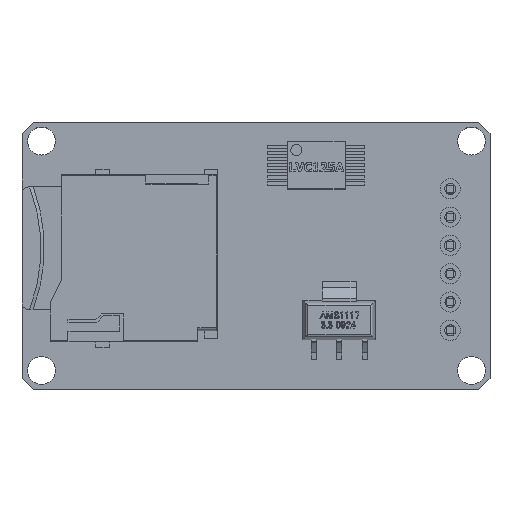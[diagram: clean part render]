
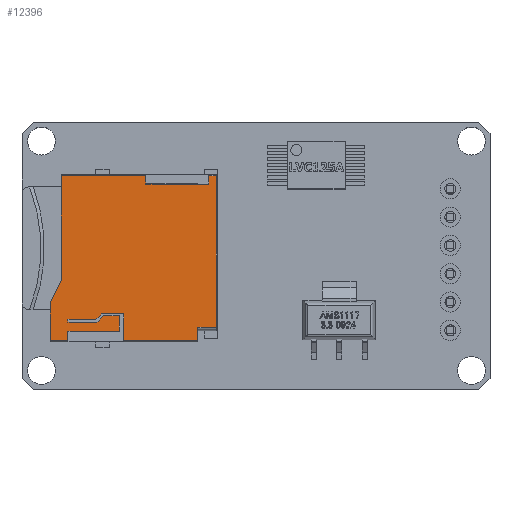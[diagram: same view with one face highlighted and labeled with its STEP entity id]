
A CAD part, top view. The second image highlights one B-rep face of the part: STEP entity #12396.
In plain terms, the highlighted planar face has unit normal (0, 0, 1).
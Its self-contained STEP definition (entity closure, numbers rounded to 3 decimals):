
#758=LINE('',#17921,#2196);
#766=LINE('',#17937,#2204);
#775=LINE('',#17957,#2213);
#776=LINE('',#17961,#2214);
#782=LINE('',#17982,#2220);
#788=LINE('',#17998,#2226);
#791=LINE('',#18004,#2229);
#799=LINE('',#18021,#2237);
#800=LINE('',#18025,#2238);
#803=LINE('',#18031,#2241);
#824=LINE('',#18077,#2262);
#825=LINE('',#18080,#2263);
#828=LINE('',#18086,#2266);
#831=LINE('',#18092,#2269);
#834=LINE('',#18098,#2272);
#837=LINE('',#18104,#2275);
#840=LINE('',#18110,#2278);
#843=LINE('',#18116,#2281);
#846=LINE('',#18122,#2284);
#849=LINE('',#18127,#2287);
#855=LINE('',#18140,#2293);
#861=LINE('',#18150,#2299);
#876=LINE('',#18179,#2314);
#1022=LINE('',#18481,#2460);
#2196=VECTOR('',#14189,10.);
#2204=VECTOR('',#14201,9.5);
#2213=VECTOR('',#14216,10.);
#2214=VECTOR('',#14221,10.);
#2220=VECTOR('',#14243,10.);
#2226=VECTOR('',#14257,10.);
#2229=VECTOR('',#14262,10.);
#2237=VECTOR('',#14276,10.);
#2238=VECTOR('',#14281,10.);
#2241=VECTOR('',#14286,10.);
#2262=VECTOR('',#14341,10.);
#2263=VECTOR('',#14344,10.);
#2266=VECTOR('',#14349,10.);
#2269=VECTOR('',#14354,10.);
#2272=VECTOR('',#14359,10.);
#2275=VECTOR('',#14364,10.);
#2278=VECTOR('',#14369,10.);
#2281=VECTOR('',#14374,10.);
#2284=VECTOR('',#14379,10.);
#2287=VECTOR('',#14384,10.);
#2293=VECTOR('',#14396,10.);
#2299=VECTOR('',#14404,10.);
#2314=VECTOR('',#14431,2.236);
#2460=VECTOR('',#14745,3.5);
#3660=FACE_OUTER_BOUND('',#4316,.T.);
#4316=EDGE_LOOP('',(#9333,#9334,#9335,#9336,#9337,#9338,#9339,#9340,#9341,
#9342,#9343,#9344,#9345,#9346,#9347,#9348,#9349,#9350,#9351,#9352,#9353,
#9354,#9355,#9356));
#5140=VERTEX_POINT('',#17918);
#5141=VERTEX_POINT('',#17920);
#5147=VERTEX_POINT('',#17935);
#5154=VERTEX_POINT('',#17954);
#5155=VERTEX_POINT('',#17956);
#5156=VERTEX_POINT('',#17960);
#5163=VERTEX_POINT('',#17980);
#5166=VERTEX_POINT('',#17991);
#5169=VERTEX_POINT('',#17996);
#5171=VERTEX_POINT('',#18002);
#5176=VERTEX_POINT('',#18018);
#5177=VERTEX_POINT('',#18020);
#5178=VERTEX_POINT('',#18024);
#5180=VERTEX_POINT('',#18030);
#5189=VERTEX_POINT('',#18079);
#5191=VERTEX_POINT('',#18085);
#5193=VERTEX_POINT('',#18091);
#5195=VERTEX_POINT('',#18097);
#5197=VERTEX_POINT('',#18103);
#5199=VERTEX_POINT('',#18109);
#5201=VERTEX_POINT('',#18115);
#5203=VERTEX_POINT('',#18121);
#5208=VERTEX_POINT('',#18139);
#5219=VERTEX_POINT('',#18177);
#6534=EDGE_CURVE('',#5140,#5141,#758,.T.);
#6543=EDGE_CURVE('',#5140,#5147,#766,.T.);
#6553=EDGE_CURVE('',#5154,#5155,#775,.T.);
#6555=EDGE_CURVE('',#5155,#5156,#776,.T.);
#6566=EDGE_CURVE('',#5154,#5163,#782,.T.);
#6574=EDGE_CURVE('',#5169,#5166,#788,.T.);
#6577=EDGE_CURVE('',#5169,#5171,#791,.T.);
#6586=EDGE_CURVE('',#5176,#5177,#799,.T.);
#6588=EDGE_CURVE('',#5178,#5177,#800,.T.);
#6591=EDGE_CURVE('',#5156,#5180,#803,.T.);
#6613=EDGE_CURVE('',#5176,#5180,#824,.T.);
#6614=EDGE_CURVE('',#5189,#5178,#825,.T.);
#6617=EDGE_CURVE('',#5191,#5189,#828,.T.);
#6620=EDGE_CURVE('',#5193,#5191,#831,.T.);
#6623=EDGE_CURVE('',#5195,#5193,#834,.T.);
#6626=EDGE_CURVE('',#5197,#5195,#837,.T.);
#6629=EDGE_CURVE('',#5199,#5197,#840,.T.);
#6632=EDGE_CURVE('',#5201,#5199,#843,.T.);
#6635=EDGE_CURVE('',#5203,#5201,#846,.T.);
#6638=EDGE_CURVE('',#5171,#5203,#849,.T.);
#6644=EDGE_CURVE('',#5208,#5141,#855,.T.);
#6650=EDGE_CURVE('',#5163,#5208,#861,.T.);
#6665=EDGE_CURVE('',#5147,#5219,#876,.T.);
#6815=EDGE_CURVE('',#5219,#5166,#1022,.T.);
#9333=ORIENTED_EDGE('',*,*,#6534,.F.);
#9334=ORIENTED_EDGE('',*,*,#6543,.T.);
#9335=ORIENTED_EDGE('',*,*,#6665,.T.);
#9336=ORIENTED_EDGE('',*,*,#6815,.T.);
#9337=ORIENTED_EDGE('',*,*,#6574,.F.);
#9338=ORIENTED_EDGE('',*,*,#6577,.T.);
#9339=ORIENTED_EDGE('',*,*,#6638,.T.);
#9340=ORIENTED_EDGE('',*,*,#6635,.T.);
#9341=ORIENTED_EDGE('',*,*,#6632,.T.);
#9342=ORIENTED_EDGE('',*,*,#6629,.T.);
#9343=ORIENTED_EDGE('',*,*,#6626,.T.);
#9344=ORIENTED_EDGE('',*,*,#6623,.T.);
#9345=ORIENTED_EDGE('',*,*,#6620,.T.);
#9346=ORIENTED_EDGE('',*,*,#6617,.T.);
#9347=ORIENTED_EDGE('',*,*,#6614,.T.);
#9348=ORIENTED_EDGE('',*,*,#6588,.T.);
#9349=ORIENTED_EDGE('',*,*,#6586,.F.);
#9350=ORIENTED_EDGE('',*,*,#6613,.T.);
#9351=ORIENTED_EDGE('',*,*,#6591,.F.);
#9352=ORIENTED_EDGE('',*,*,#6555,.F.);
#9353=ORIENTED_EDGE('',*,*,#6553,.F.);
#9354=ORIENTED_EDGE('',*,*,#6566,.T.);
#9355=ORIENTED_EDGE('',*,*,#6650,.T.);
#9356=ORIENTED_EDGE('',*,*,#6644,.T.);
#11709=PLANE('',#13111);
#12396=ADVANCED_FACE('',(#3660),#11709,.T.);
#13111=AXIS2_PLACEMENT_3D('',#18482,#14746,#14747);
#14189=DIRECTION('',(1.,0.,0.));
#14201=DIRECTION('',(0.,-1.,0.));
#14216=DIRECTION('',(1.,0.,0.));
#14221=DIRECTION('',(0.,-1.,0.));
#14243=DIRECTION('',(0.,-1.,0.));
#14257=DIRECTION('',(-1.,0.,0.));
#14262=DIRECTION('',(0.,1.,0.));
#14276=DIRECTION('',(-1.,0.,0.));
#14281=DIRECTION('',(0.,-1.,0.));
#14286=DIRECTION('',(-1.,0.,0.));
#14341=DIRECTION('',(0.,1.,0.));
#14344=DIRECTION('',(1.,0.,0.));
#14349=DIRECTION('',(0.707,0.707,0.));
#14354=DIRECTION('',(1.,0.,0.));
#14359=DIRECTION('',(0.,1.,0.));
#14364=DIRECTION('',(-1.,0.,0.));
#14369=DIRECTION('',(-0.707,-0.707,0.));
#14374=DIRECTION('',(-1.,0.,0.));
#14379=DIRECTION('',(0.,1.,0.));
#14384=DIRECTION('',(1.,0.,0.));
#14396=DIRECTION('',(0.,1.,0.));
#14404=DIRECTION('',(-1.,0.,0.));
#14431=DIRECTION('',(-0.447,-0.894,0.));
#14745=DIRECTION('',(0.,-1.,0.));
#14746=DIRECTION('center_axis',(0.,0.,1.));
#14747=DIRECTION('ref_axis',(1.,0.,0.));
#17918=CARTESIAN_POINT('',(-14.084,8.2,3.4));
#17920=CARTESIAN_POINT('',(-6.501,8.2,3.4));
#17921=CARTESIAN_POINT('',(-0.042,8.2,3.4));
#17935=CARTESIAN_POINT('',(-14.084,-1.2,3.4));
#17937=CARTESIAN_POINT('',(-14.084,8.3,3.4));
#17954=CARTESIAN_POINT('',(-0.871,8.2,3.4));
#17956=CARTESIAN_POINT('',(-0.184,8.2,3.4));
#17957=CARTESIAN_POINT('',(-0.042,8.2,3.4));
#17960=CARTESIAN_POINT('',(-0.184,-5.4,3.4));
#17961=CARTESIAN_POINT('',(-0.184,-3.35,3.4));
#17980=CARTESIAN_POINT('',(-0.871,7.45,3.4));
#17982=CARTESIAN_POINT('',(-0.871,4.15,3.4));
#17991=CARTESIAN_POINT('',(-15.084,-6.6,3.4));
#17996=CARTESIAN_POINT('',(-13.496,-6.6,3.4));
#17998=CARTESIAN_POINT('',(-7.542,-6.6,3.4));
#18002=CARTESIAN_POINT('',(-13.496,-5.75,3.4));
#18004=CARTESIAN_POINT('',(-13.496,-3.35,3.4));
#18018=CARTESIAN_POINT('',(-1.834,-6.6,3.4));
#18020=CARTESIAN_POINT('',(-8.496,-6.6,3.4));
#18021=CARTESIAN_POINT('',(-7.542,-6.6,3.4));
#18024=CARTESIAN_POINT('',(-8.496,-4.2,3.4));
#18025=CARTESIAN_POINT('',(-8.496,-2.1,3.4));
#18030=CARTESIAN_POINT('',(-1.834,-5.4,3.4));
#18031=CARTESIAN_POINT('',(-0.917,-5.4,3.4));
#18077=CARTESIAN_POINT('',(-1.834,-3.35,3.4));
#18079=CARTESIAN_POINT('',(-10.496,-4.2,3.4));
#18080=CARTESIAN_POINT('',(-5.248,-4.2,3.4));
#18085=CARTESIAN_POINT('',(-10.996,-4.7,3.4));
#18086=CARTESIAN_POINT('',(-7.072,-0.776,3.4));
#18091=CARTESIAN_POINT('',(-13.496,-4.7,3.4));
#18092=CARTESIAN_POINT('',(-6.748,-4.7,3.4));
#18097=CARTESIAN_POINT('',(-13.496,-4.95,3.4));
#18098=CARTESIAN_POINT('',(-13.496,-2.475,3.4));
#18103=CARTESIAN_POINT('',(-10.896,-4.95,3.4));
#18104=CARTESIAN_POINT('',(-5.448,-4.95,3.4));
#18109=CARTESIAN_POINT('',(-10.296,-4.35,3.4));
#18110=CARTESIAN_POINT('',(-6.635,-0.688,3.4));
#18115=CARTESIAN_POINT('',(-8.896,-4.35,3.4));
#18116=CARTESIAN_POINT('',(-4.448,-4.35,3.4));
#18121=CARTESIAN_POINT('',(-8.896,-5.75,3.4));
#18122=CARTESIAN_POINT('',(-8.896,-2.875,3.4));
#18127=CARTESIAN_POINT('',(-6.748,-5.75,3.4));
#18139=CARTESIAN_POINT('',(-6.501,7.45,3.4));
#18140=CARTESIAN_POINT('',(-6.501,3.725,3.4));
#18150=CARTESIAN_POINT('',(-0.436,7.45,3.4));
#18177=CARTESIAN_POINT('',(-15.084,-3.2,3.4));
#18179=CARTESIAN_POINT('',(-14.084,-1.2,3.4));
#18481=CARTESIAN_POINT('',(-15.084,-3.2,3.4));
#18482=CARTESIAN_POINT('Origin',(0.,0.,3.4));
